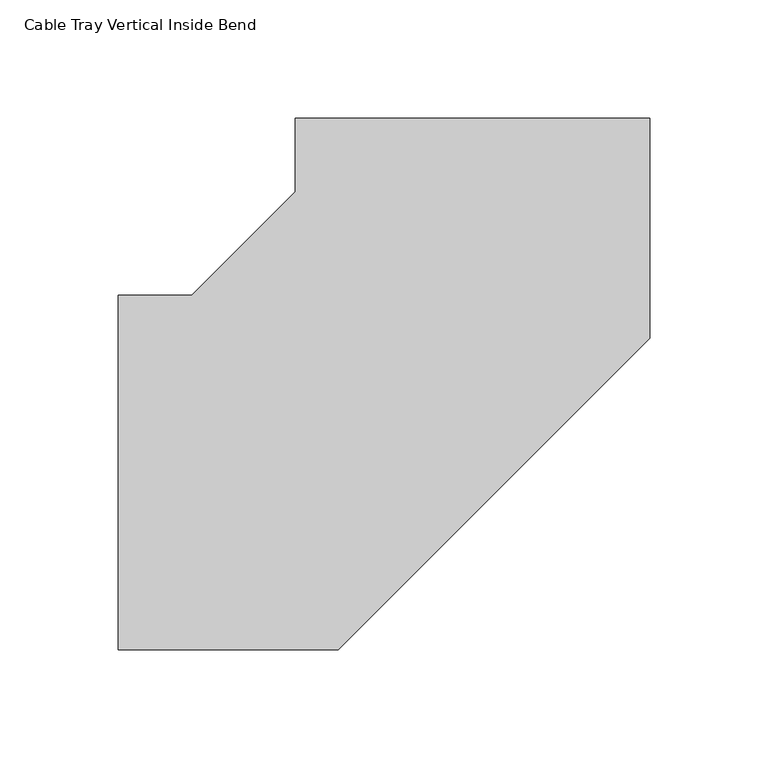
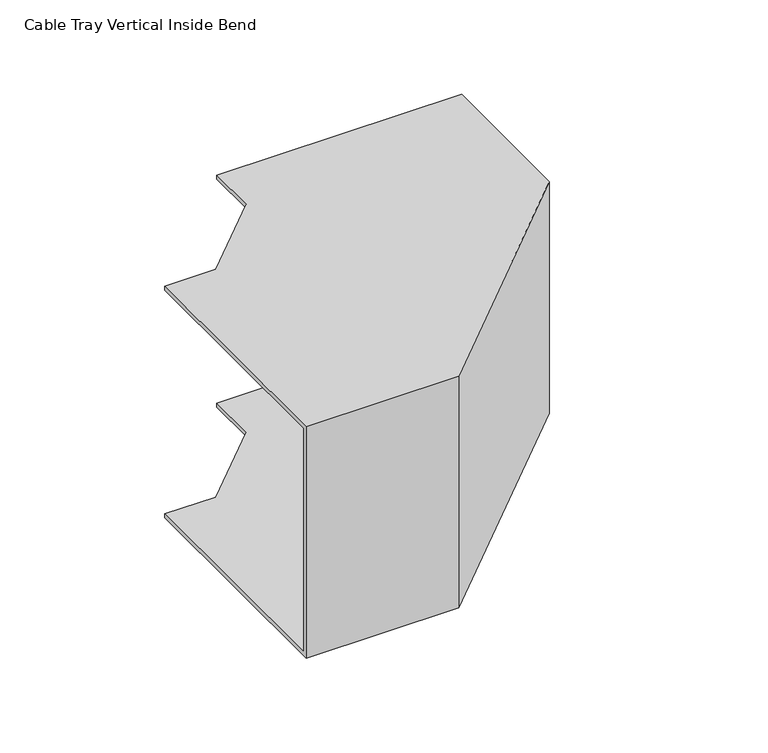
"""IFC4 building model written with IfcOpenShell, lengths in millimetres: cable carrier fitting geometry, Cable Tray Vertical Inside Bend : ELEC_ELV_TKG_N2402."""

from ifc_helpers import new_model, si_unit, origin, place, context, project, spatial, faceted_brep, source, transform, mapped, element, save


def cable_tray_vertical_inside_bend_4fdccae9(model_context):
    return source(origin(), model_context, "Body", "Brep", [
        faceted_brep([(-149.9921165, 75.0, 75.0), (-149.9921165, 75.0, 72.46), (-149.9921165, -72.46, 72.46), (-149.9921165, -72.46, -72.46), (-149.9921165, 75.0, -72.46), (-149.9921165, 75.0, -75.0), (-149.9921165, -75.0, -75.0), (-149.9921165, -75.0, 75.0), (-74.9921166, 149.9960582, 75.0), (75.0078832, 149.9881745, 75.0), (75.0078832, 149.9881745, -75.0), (-74.9921166, 149.9960582, -75.0), (-74.9921166, 149.9960582, -72.46), (72.4678832, 149.988308, -72.46), (72.4678832, 149.988308, 72.46), (-74.9921166, 149.9960582, 72.46), (-118.9272539, 75.0, 75.0), (-118.9272539, 75.0, 72.46), (-74.9937493, 118.9311956, 72.46), (72.4630404, 57.8457835, 72.46), (-57.8495919, -72.46, 72.46), (-57.8495919, -72.46, -72.46), (72.4630404, 57.8457835, -72.46), (-74.9937493, 118.9311956, -72.46), (-118.9272539, 75.0, -72.46), (-118.9272539, 75.0, -75.0), (-74.9937493, 118.9311956, -75.0), (75.0029851, 56.7935867, -75.0), (-56.7975286, -75.0, -75.0), (-56.7975286, -75.0, 75.0), (75.0029851, 56.7935867, 75.0), (-74.9937493, 118.9311956, 75.0)], [[[0, 1, 2, 3, 4, 5, 6, 7]], [[8, 9, 10, 11, 12, 13, 14, 15]], [[1, 0, 16, 17]], [[2, 1, 17, 18, 15, 14, 19, 20]], [[3, 2, 20, 21]], [[4, 3, 21, 22, 13, 12, 23, 24]], [[5, 4, 24, 25]], [[6, 5, 25, 26, 11, 10, 27, 28]], [[7, 6, 28, 29]], [[0, 7, 29, 30, 9, 8, 31, 16]], [[17, 16, 31, 18]], [[21, 20, 19, 22]], [[25, 24, 23, 26]], [[29, 28, 27, 30]], [[18, 31, 8, 15]], [[22, 19, 14, 13]], [[26, 23, 12, 11]], [[30, 27, 10, 9]]]),
    ])


if __name__ == "__main__":
    model = new_model("IFC4")
    model_context = context("Model", 3, world=origin())
    ifc_project = project(units=[si_unit("LENGTHUNIT", "METRE", prefix="MILLI")], contexts=[model_context])
    site = spatial("IfcSite", under=ifc_project)
    building = spatial("IfcBuilding", under=site)
    placement = place(None, origin())
    cable_tray_vertical_inside_bend_shape = cable_tray_vertical_inside_bend_4fdccae9(model_context)
    element("IfcCableCarrierFitting", 1, ObjectType="Cable Tray Vertical Inside Bend : ELEC_ELV_TKG_N2402", at=placement, inside=building, context=model_context, shape_type="MappedRepresentation", body=[
        mapped(cable_tray_vertical_inside_bend_shape, transform((0.0, 0.0, 0.0), x_axis=(1.0, 0.0, 0.0), y_axis=(0.0, 1.0, 0.0), z_axis=(0.0, 0.0, 1.0))),
    ])
    save(model, "model.ifc")
